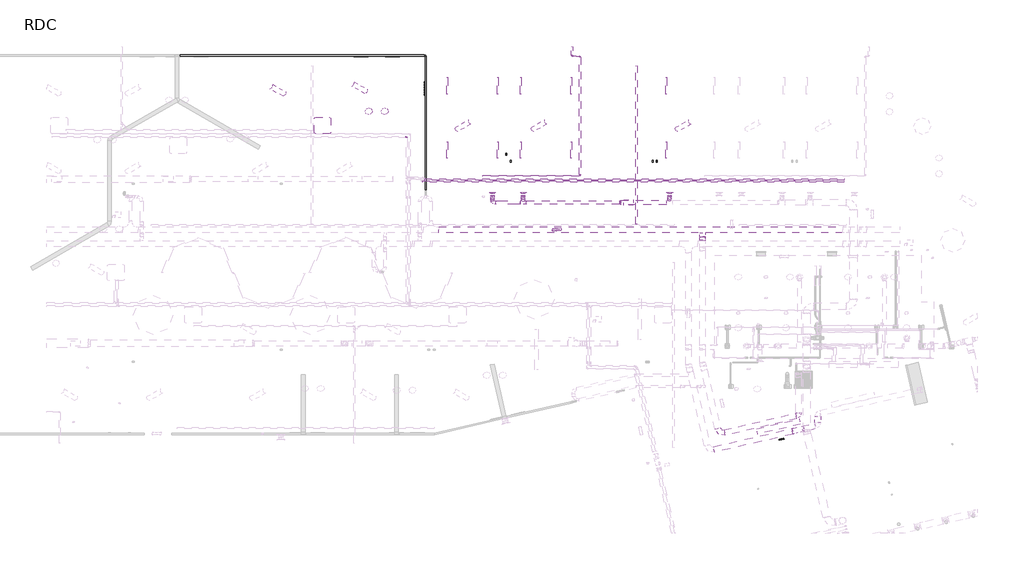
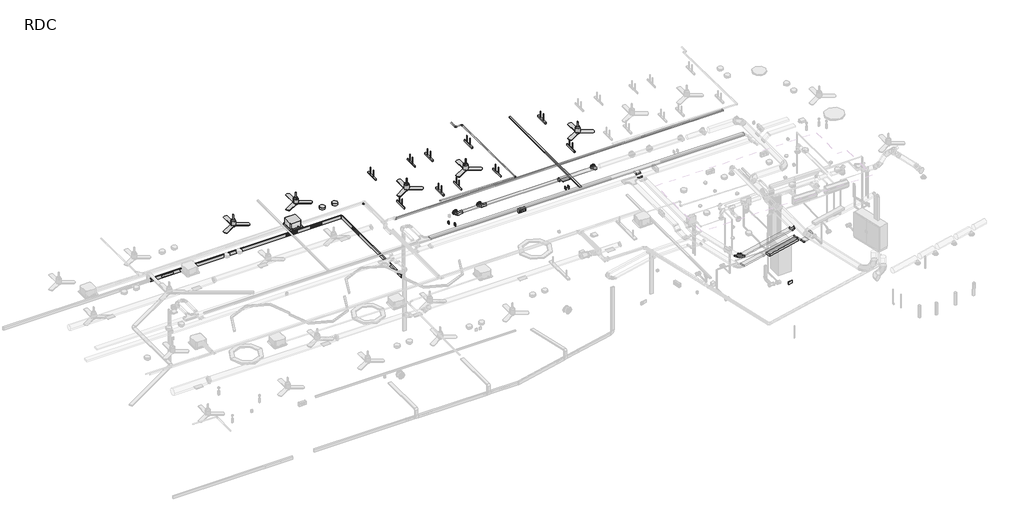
# One storey, part 8 of 15: 28 proxies, 15 light fixtures, 11 duct segments, 8 cable carrier segments, 7 duct fittings, 6 cable carrier fittings, 6 pipe segments, 4 air terminals, 5 other elements.
"""IFC4 building model written with IfcOpenShell, lengths in millimetres."""

from ifc_helpers import new_model, si_unit, point, frame, frame_2d, origin, place, context, project, spatial, polyline, circle_curve, trimmed, segment, composite_curve, outline, extrude, transform, mapped, element, save
from components import air_terminal_c84e8fe3, air_terminal_300x150_ce1732d7, alarm_a2f5a035, electrical_fixtures_f93b5bb2, electrical_fixtures_7208e772, electrical_fixtures_3a4acf06, mechanical_equipment_4a9d14a3, cassette_600x600_07ba985d, standaard_8c2b1447, standaard_3ccb1d7a, standaard_35becd63, standaard_749a00b5, coude_circulaire_1_d_1d3d167f, coude_circulaire_1_d_f5cf0ac1, coude_rectangulaire_rayon_1_w_45743452, standard_07d20943, transformation_ronde_longueur_standard_e9dbb60f, light_fixture_d6a2bba2, light_fixture_1af5f06e, a7_136c5a55, ai_luminaire_spot_downlight_a3_0014797d, c1_2018c24c, standard_8b2a5564, standard_6fab9642, standard_1683f353

model = new_model("IFC4")

# Units and contexts
model_context = context("Model", 3, world=origin())
ifc_project = project(units=[si_unit("LENGTHUNIT", "METRE", prefix="MILLI")], contexts=[model_context])

# Site, building, storey
site = spatial("IfcSite", under=ifc_project)
building = spatial("IfcBuilding", under=site)
storey = spatial("IfcBuildingStorey", under=building, Name="RDC", Elevation=0.0)

# Air terminals
placement = place(None, origin())
air_terminal_shape = air_terminal_c84e8fe3(model_context)
element("IfcAirTerminal", 1, ObjectType="AI_Bouche aération_Circulaire Soufflage : ø125 mm", at=placement, inside=storey, context=model_context, shape_type="MappedRepresentation", body=[
    mapped(air_terminal_shape, transform((30577.9945729, 9719.755098, 2645.2129398), x_axis=(-1.0, 0.0, 0.0), y_axis=(0.0, 0.0, -1.0), z_axis=(0.0, -1.0, 0.0))),
])
element("IfcAirTerminal", 2, ObjectType="AI_Bouche aération_Circulaire Soufflage : ø125 mm", at=placement, inside=storey, context=model_context, shape_type="MappedRepresentation", body=[
    mapped(air_terminal_shape, transform((25377.9945729, 9719.755098, 2645.2129398), x_axis=(-1.0, 0.0, 0.0), y_axis=(0.0, 0.0, -1.0), z_axis=(0.0, -1.0, 0.0))),
])
element("IfcAirTerminal", 3, ObjectType="AI_Bouche aération_Circulaire Soufflage : ø125 mm", at=placement, inside=storey, context=model_context, shape_type="MappedRepresentation", body=[
    mapped(air_terminal_shape, transform((24277.9945729, 9719.755098, 2645.2129398), x_axis=(-1.0, 0.0, 0.0), y_axis=(0.0, 0.0, -1.0), z_axis=(0.0, -1.0, 0.0))),
])
air_terminal_300x150_shape = air_terminal_300x150_ce1732d7(model_context)
element("IfcAirTerminal", 4, ObjectType="AI_Bouche aération_Grille de soufflage rectangulaire sur gaine : 300x150", at=placement, inside=storey, context=model_context, shape_type="MappedRepresentation", body=[
    mapped(air_terminal_300x150_shape, transform((29123.6248798, 9366.3796613, 2740.0988525), x_axis=(0.0, 1.0, 0.0), y_axis=(-1.0, 0.0, 0.0), z_axis=(0.0, 0.0, 1.0))),
])

# Alarm
alarm_shape = alarm_a2f5a035(model_context)
element("IfcAlarm", 5, ObjectType="AI_Incendie_Système de sécurité incendie : Système de sécurité incendie", at=placement, inside=storey, context=model_context, shape_type="MappedRepresentation", body=[
    mapped(alarm_shape, transform((34557.2066266, 946.7791877, 900.0), x_axis=(-0.9743700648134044, -0.22495105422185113, 0.0), y_axis=(0.22495105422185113, -0.9743700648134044, 0.0), z_axis=(0.0, 0.0, 1.0))),
])

# Proxies
electrical_fixtures_shape = electrical_fixtures_f93b5bb2(model_context)
element("IfcBuildingElementProxy", 6, Name="AI_Instal elec_Prise RJ45 : RJ 45 Murale", ObjectType="AI_Instal elec_Prise RJ45 : RJ 45 Murale", at=placement, inside=storey, context=model_context, shape_type="MappedRepresentation", body=[
    mapped(electrical_fixtures_shape, transform((21887.989218, 13288.420784, 300.0), x_axis=(0.0, 1.0, 0.0), y_axis=(-1.0, 0.0, 0.0), z_axis=(0.0, 0.0, 1.0))),
])
element("IfcBuildingElementProxy", 7, Name="AI_Instal elec_Prise RJ45 : RJ 45 Murale", ObjectType="AI_Instal elec_Prise RJ45 : RJ 45 Murale", at=placement, inside=storey, context=model_context, shape_type="MappedRepresentation", body=[
    mapped(electrical_fixtures_shape, transform((21887.989218, 13203.420784, 300.0), x_axis=(0.0, 1.0, 0.0), y_axis=(-1.0, 0.0, 0.0), z_axis=(0.0, 0.0, 1.0))),
])
element("IfcBuildingElementProxy", 8, Name="AI_Instal elec_Prise RJ45 : RJ 45 Murale", ObjectType="AI_Instal elec_Prise RJ45 : RJ 45 Murale", at=placement, inside=storey, context=model_context, shape_type="MappedRepresentation", body=[
    mapped(electrical_fixtures_shape, transform((20855.489218, 14569.3027103, 300.0), x_axis=(-1.0, 0.0, 0.0), y_axis=(0.0, -1.0, 0.0), z_axis=(0.0, 0.0, 1.0))),
])
element("IfcBuildingElementProxy", 9, Name="AI_Instal elec_Prise RJ45 : RJ 45 Murale", ObjectType="AI_Instal elec_Prise RJ45 : RJ 45 Murale", at=placement, inside=storey, context=model_context, shape_type="MappedRepresentation", body=[
    mapped(electrical_fixtures_shape, transform((20940.489218, 14569.3027103, 300.0), x_axis=(-1.0, 0.0, 0.0), y_axis=(0.0, -1.0, 0.0), z_axis=(0.0, 0.0, 1.0))),
])
element("IfcBuildingElementProxy", 10, Name="AI_Instal elec_Prise RJ45 : RJ 45 Murale", ObjectType="AI_Instal elec_Prise RJ45 : RJ 45 Murale", at=placement, inside=storey, context=model_context, shape_type="MappedRepresentation", body=[
    mapped(electrical_fixtures_shape, transform((19735.489218, 14569.3027103, 300.0), x_axis=(-1.0, 0.0, 0.0), y_axis=(0.0, -1.0, 0.0), z_axis=(0.0, 0.0, 1.0))),
])
element("IfcBuildingElementProxy", 11, Name="AI_Instal elec_Prise RJ45 : RJ 45 Murale", ObjectType="AI_Instal elec_Prise RJ45 : RJ 45 Murale", at=placement, inside=storey, context=model_context, shape_type="MappedRepresentation", body=[
    mapped(electrical_fixtures_shape, transform((19820.489218, 14569.3027103, 300.0), x_axis=(-1.0, 0.0, 0.0), y_axis=(0.0, -1.0, 0.0), z_axis=(0.0, 0.0, 1.0))),
])
electrical_fixtures_2_shape = electrical_fixtures_7208e772(model_context)
element("IfcBuildingElementProxy", 12, Name="AI_Instal elec_PC 16A +T à 0,30m : PC 16A +T à 0,30m", ObjectType="AI_Instal elec_PC 16A +T à 0,30m : PC 16A +T à 0,30m", at=placement, inside=storey, context=model_context, shape_type="MappedRepresentation", body=[
    mapped(electrical_fixtures_2_shape, transform((21887.989218, 13628.420784, 300.0), x_axis=(0.0, 1.0, 0.0), y_axis=(-1.0, 0.0, 0.0), z_axis=(0.0, 0.0, 1.0))),
])
element("IfcBuildingElementProxy", 13, Name="AI_Instal elec_PC 16A +T à 0,30m : PC 16A +T à 0,30m", ObjectType="AI_Instal elec_PC 16A +T à 0,30m : PC 16A +T à 0,30m", at=placement, inside=storey, context=model_context, shape_type="MappedRepresentation", body=[
    mapped(electrical_fixtures_2_shape, transform((21887.989218, 13543.420784, 300.0), x_axis=(0.0, 1.0, 0.0), y_axis=(-1.0, 0.0, 0.0), z_axis=(0.0, 0.0, 1.0))),
])
element("IfcBuildingElementProxy", 14, Name="AI_Instal elec_PC 16A +T à 0,30m : PC 16A +T à 0,30m", ObjectType="AI_Instal elec_PC 16A +T à 0,30m : PC 16A +T à 0,30m", at=placement, inside=storey, context=model_context, shape_type="MappedRepresentation", body=[
    mapped(electrical_fixtures_2_shape, transform((20515.489218, 14569.3027103, 300.0), x_axis=(-1.0, 0.0, 0.0), y_axis=(0.0, -1.0, 0.0), z_axis=(0.0, 0.0, 1.0))),
])
element("IfcBuildingElementProxy", 15, Name="AI_Instal elec_PC 16A +T à 0,30m : PC 16A +T à 0,30m", ObjectType="AI_Instal elec_PC 16A +T à 0,30m : PC 16A +T à 0,30m", at=placement, inside=storey, context=model_context, shape_type="MappedRepresentation", body=[
    mapped(electrical_fixtures_2_shape, transform((20600.489218, 14569.3027103, 300.0), x_axis=(-1.0, 0.0, 0.0), y_axis=(0.0, -1.0, 0.0), z_axis=(0.0, 0.0, 1.0))),
])
element("IfcBuildingElementProxy", 16, Name="AI_Instal elec_PC 16A +T à 0,30m : PC 16A +T à 0,30m", ObjectType="AI_Instal elec_PC 16A +T à 0,30m : PC 16A +T à 0,30m", at=placement, inside=storey, context=model_context, shape_type="MappedRepresentation", body=[
    mapped(electrical_fixtures_2_shape, transform((19395.489218, 14569.3027103, 300.0), x_axis=(-1.0, 0.0, 0.0), y_axis=(0.0, -1.0, 0.0), z_axis=(0.0, 0.0, 1.0))),
])
element("IfcBuildingElementProxy", 17, Name="AI_Instal elec_PC 16A +T à 0,30m : PC 16A +T à 0,30m", ObjectType="AI_Instal elec_PC 16A +T à 0,30m : PC 16A +T à 0,30m", at=placement, inside=storey, context=model_context, shape_type="MappedRepresentation", body=[
    mapped(electrical_fixtures_2_shape, transform((19480.489218, 14569.3027103, 300.0), x_axis=(-1.0, 0.0, 0.0), y_axis=(0.0, -1.0, 0.0), z_axis=(0.0, 0.0, 1.0))),
])
element("IfcBuildingElementProxy", 18, Name="AI_Instal elec_Prise de courant 2P+T 16A ondulée : AI_Instal elec_Prise de courant 2P+T 16A ondulée", ObjectType="AI_Instal elec_Prise de courant 2P+T 16A ondulée : AI_Instal elec_Prise de courant 2P+T 16A ondulée", at=placement, inside=storey, context=model_context, shape_type="MappedRepresentation", body=[
    mapped(electrical_fixtures_2_shape, transform((21887.989218, 13458.420784, 300.0), x_axis=(0.0, 1.0, 0.0), y_axis=(-1.0, 0.0, 0.0), z_axis=(0.0, 0.0, 1.0))),
])
element("IfcBuildingElementProxy", 19, Name="AI_Instal elec_Prise de courant 2P+T 16A ondulée : AI_Instal elec_Prise de courant 2P+T 16A ondulée", ObjectType="AI_Instal elec_Prise de courant 2P+T 16A ondulée : AI_Instal elec_Prise de courant 2P+T 16A ondulée", at=placement, inside=storey, context=model_context, shape_type="MappedRepresentation", body=[
    mapped(electrical_fixtures_2_shape, transform((21887.989218, 13373.420784, 300.0), x_axis=(0.0, 1.0, 0.0), y_axis=(-1.0, 0.0, 0.0), z_axis=(0.0, 0.0, 1.0))),
])
element("IfcBuildingElementProxy", 20, Name="AI_Instal elec_Prise de courant 2P+T 16A ondulée : AI_Instal elec_Prise de courant 2P+T 16A ondulée", ObjectType="AI_Instal elec_Prise de courant 2P+T 16A ondulée : AI_Instal elec_Prise de courant 2P+T 16A ondulée", at=placement, inside=storey, context=model_context, shape_type="MappedRepresentation", body=[
    mapped(electrical_fixtures_2_shape, transform((20685.489218, 14569.3027103, 300.0), x_axis=(-1.0, 0.0, 0.0), y_axis=(0.0, -1.0, 0.0), z_axis=(0.0, 0.0, 1.0))),
])
element("IfcBuildingElementProxy", 21, Name="AI_Instal elec_Prise de courant 2P+T 16A ondulée : AI_Instal elec_Prise de courant 2P+T 16A ondulée", ObjectType="AI_Instal elec_Prise de courant 2P+T 16A ondulée : AI_Instal elec_Prise de courant 2P+T 16A ondulée", at=placement, inside=storey, context=model_context, shape_type="MappedRepresentation", body=[
    mapped(electrical_fixtures_2_shape, transform((20770.489218, 14569.3027103, 300.0), x_axis=(-1.0, 0.0, 0.0), y_axis=(0.0, -1.0, 0.0), z_axis=(0.0, 0.0, 1.0))),
])
element("IfcBuildingElementProxy", 22, Name="AI_Instal elec_Prise de courant 2P+T 16A ondulée : AI_Instal elec_Prise de courant 2P+T 16A ondulée", ObjectType="AI_Instal elec_Prise de courant 2P+T 16A ondulée : AI_Instal elec_Prise de courant 2P+T 16A ondulée", at=placement, inside=storey, context=model_context, shape_type="MappedRepresentation", body=[
    mapped(electrical_fixtures_2_shape, transform((19565.489218, 14569.3027103, 300.0), x_axis=(-1.0, 0.0, 0.0), y_axis=(0.0, -1.0, 0.0), z_axis=(0.0, 0.0, 1.0))),
])
element("IfcBuildingElementProxy", 23, Name="AI_Instal elec_Prise de courant 2P+T 16A ondulée : AI_Instal elec_Prise de courant 2P+T 16A ondulée", ObjectType="AI_Instal elec_Prise de courant 2P+T 16A ondulée : AI_Instal elec_Prise de courant 2P+T 16A ondulée", at=placement, inside=storey, context=model_context, shape_type="MappedRepresentation", body=[
    mapped(electrical_fixtures_2_shape, transform((19650.489218, 14569.3027103, 300.0), x_axis=(-1.0, 0.0, 0.0), y_axis=(0.0, -1.0, 0.0), z_axis=(0.0, 0.0, 1.0))),
])
electrical_fixtures_3_shape = electrical_fixtures_3a4acf06(model_context)
element("IfcBuildingElementProxy", 24, Name="AI_Instal elec_Brasseur d'air : AI_Instal elec_Brasseur d'air", ObjectType="AI_Instal elec_Brasseur d'air : AI_Instal elec_Brasseur d'air", at=placement, inside=storey, context=model_context, shape_type="MappedRepresentation", body=[
    mapped(electrical_fixtures_3_shape, transform((26242.3869262, 12271.8795764, 2500.0), x_axis=(1.0, 0.0, 0.0), y_axis=(0.0, 1.0, 0.0), z_axis=(0.0, 0.0, 1.0))),
])
element("IfcBuildingElementProxy", 25, Name="AI_Instal elec_Brasseur d'air : AI_Instal elec_Brasseur d'air", ObjectType="AI_Instal elec_Brasseur d'air : AI_Instal elec_Brasseur d'air", at=placement, inside=storey, context=model_context, shape_type="MappedRepresentation", body=[
    mapped(electrical_fixtures_3_shape, transform((23542.3869262, 12271.8795764, 2500.0), x_axis=(1.0, 0.0, 0.0), y_axis=(0.0, 1.0, 0.0), z_axis=(0.0, 0.0, 1.0))),
])
element("IfcBuildingElementProxy", 26, Name="AI_Instal elec_Brasseur d'air : AI_Instal elec_Brasseur d'air", ObjectType="AI_Instal elec_Brasseur d'air : AI_Instal elec_Brasseur d'air", at=placement, inside=storey, context=model_context, shape_type="MappedRepresentation", body=[
    mapped(electrical_fixtures_3_shape, transform((31367.3869262, 12271.8795764, 2500.0), x_axis=(1.0, 0.0, 0.0), y_axis=(0.0, 1.0, 0.0), z_axis=(0.0, 0.0, 1.0))),
])
element("IfcBuildingElementProxy", 27, Name="AI_Instal elec_Brasseur d'air : AI_Instal elec_Brasseur d'air", ObjectType="AI_Instal elec_Brasseur d'air : AI_Instal elec_Brasseur d'air", at=placement, inside=storey, context=model_context, shape_type="MappedRepresentation", body=[
    mapped(electrical_fixtures_3_shape, transform((19256.0013218, 13624.6884314, 2500.0), x_axis=(1.0, 0.0, 0.0), y_axis=(0.0, 1.0, 0.0), z_axis=(0.0, 0.0, 1.0))),
])
element("IfcBuildingElementProxy", 28, Name="AI_Instal elec_Brasseur d'air : AI_Instal elec_Brasseur d'air", ObjectType="AI_Instal elec_Brasseur d'air : AI_Instal elec_Brasseur d'air", at=placement, inside=storey, context=model_context, shape_type="MappedRepresentation", body=[
    mapped(electrical_fixtures_3_shape, transform((16346.0013218, 13534.6884314, 2500.0), x_axis=(1.0, 0.0, 0.0), y_axis=(0.0, 1.0, 0.0), z_axis=(0.0, 0.0, 1.0))),
])
mechanical_equipment_shape = mechanical_equipment_4a9d14a3(model_context)
element("IfcBuildingElementProxy", 29, Name="AI_Eqpmt genie clim_Commande murale Clim : Commande murale Clim", ObjectType="AI_Eqpmt genie clim_Commande murale Clim : Commande murale Clim", at=placement, inside=storey, context=model_context, shape_type="MappedRepresentation", body=[
    mapped(mechanical_equipment_shape, transform((24923.502581, 10839.1469545, 1130.0), x_axis=(0.0, -1.0, 0.0), y_axis=(1.0, 0.0, 0.0), z_axis=(0.0, 0.0, 1.0))),
])
element("IfcBuildingElementProxy", 30, Name="AI_Eqpmt genie clim_Commande murale Clim : Commande murale Clim", ObjectType="AI_Eqpmt genie clim_Commande murale Clim : Commande murale Clim", at=placement, inside=storey, context=model_context, shape_type="MappedRepresentation", body=[
    mapped(mechanical_equipment_shape, transform((24795.9728872, 11084.9658872, 1130.0), x_axis=(0.0, 1.0, 0.0), y_axis=(-1.0, 0.0, 0.0), z_axis=(0.0, 0.0, 1.0))),
])
element("IfcBuildingElementProxy", 31, Name="AI_Eqpmt genie clim_Commande murale Clim : Commande murale Clim", ObjectType="AI_Eqpmt genie clim_Commande murale Clim : Commande murale Clim", at=placement, inside=storey, context=model_context, shape_type="MappedRepresentation", body=[
    mapped(mechanical_equipment_shape, transform((30100.6905255, 10839.1469545, 1130.0), x_axis=(0.0, -1.0, 0.0), y_axis=(1.0, 0.0, 0.0), z_axis=(0.0, 0.0, 1.0))),
])
element("IfcBuildingElementProxy", 32, Name="AI_Eqpmt genie clim_Commande murale Clim : Commande murale Clim", ObjectType="AI_Eqpmt genie clim_Commande murale Clim : Commande murale Clim", at=placement, inside=storey, context=model_context, shape_type="MappedRepresentation", body=[
    mapped(mechanical_equipment_shape, transform((30000.6905255, 10839.2735754, 1130.0), x_axis=(0.0, 1.0, 0.0), y_axis=(-1.0, 0.0, 0.0), z_axis=(0.0, 0.0, 1.0))),
])
cassette_600x600_shape = cassette_600x600_07ba985d(model_context)
element("IfcBuildingElementProxy", 33, Name="AI_Eqpmt genie clim_Cassette plafonnière : Cassette 600x600", ObjectType="AI_Eqpmt genie clim_Cassette plafonnière : Cassette 600x600", at=placement, inside=storey, context=model_context, shape_type="MappedRepresentation", body=[
    mapped(cassette_600x600_shape, transform((17377.2942225, 12897.391148, 2680.0), x_axis=(1.0, 0.0, 0.0), y_axis=(0.0, 1.0, 0.0), z_axis=(0.0, 0.0, 1.0))),
])

# Cable carrier fittings
standaard_shape = standaard_8c2b1447(model_context)
element("IfcCableCarrierFitting", 34, ObjectType="AI_Raccord cdc_Coude horizontal rayon court : standaard", at=placement, inside=storey, context=model_context, shape_type="MappedRepresentation", body=[
    mapped(standaard_shape, transform((32336.9309606, 1145.8275526, 2856.9968882), x_axis=(0.22494649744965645, -0.9743711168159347, 0.0), y_axis=(0.9743711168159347, 0.22494649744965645, 0.0), z_axis=(0.0, 0.0, 1.0))),
])
standaard_2_shape = standaard_3ccb1d7a(model_context)
element("IfcCableCarrierFitting", 35, ObjectType="AI_Raccord cdc_Coude desencdant : standaard", at=placement, inside=storey, context=model_context, shape_type="MappedRepresentation", body=[
    mapped(standaard_2_shape, transform((31753.8980101, 8133.2673677, 2856.9968882), x_axis=(0.0, 0.7071067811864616, 0.7071067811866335), y_axis=(0.0, 0.7071067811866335, -0.7071067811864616), z_axis=(-1.0, 0.0, 0.0))),
])
element("IfcCableCarrierFitting", 36, ObjectType="AI_Raccord cdc_Coude desencdant : standaard", at=placement, inside=storey, context=model_context, shape_type="MappedRepresentation", body=[
    mapped(standaard_2_shape, transform((34960.0857534, 1238.2661331, 2856.9968882), x_axis=(0.9743711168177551, 0.2249464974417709, 0.0), y_axis=(0.0, -1.927499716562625e-12, -1.0), z_axis=(-0.2249464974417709, 0.9743711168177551, -1.9781987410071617e-12))),
])
standaard_3_shape = standaard_35becd63(model_context)
element("IfcCableCarrierFitting", 37, ObjectType="AI_Raccord cdc_Coude montant : standaard", at=placement, inside=storey, context=model_context, shape_type="MappedRepresentation", body=[
    mapped(standaard_3_shape, transform((31753.8980101, 8020.1302827, 2743.8598032), x_axis=(0.0, 1.0, 0.0), y_axis=(0.0, 0.0, 1.0), z_axis=(1.0, 0.0, 0.0))),
])
element("IfcCableCarrierFitting", 38, ObjectType="AI_Raccord cdc_Coude montant : standaard", at=placement, inside=storey, context=model_context, shape_type="MappedRepresentation", body=[
    mapped(standaard_3_shape, transform((35337.1643436, 1325.3197276, 2470.0), x_axis=(0.6889844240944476, 0.15906119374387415, -0.707106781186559), y_axis=(0.6889844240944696, 0.1590611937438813, 0.7071067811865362), z_axis=(0.22494649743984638, -0.9743711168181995, 0.0))),
])
standaard_4_shape = standaard_749a00b5(model_context)
element("IfcCableCarrierFitting", 39, ObjectType="AI_Raccord cdc_Coude horizontal rayon court : standaard", at=placement, inside=storey, context=model_context, shape_type="MappedRepresentation", body=[
    mapped(standaard_4_shape, transform((35168.4331978, 1799.5174042, 2856.9968882), x_axis=(0.9743711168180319, 0.22494649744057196, 0.0), y_axis=(-0.22494649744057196, 0.9743711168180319, 0.0), z_axis=(0.0, 0.0, 1.0))),
])

# Cable carrier segments
element("IfcCableCarrierSegment", 40, ObjectType="Par défaut", at=placement, inside=storey, context=model_context, shape_type="SweptSolid", body=[
    extrude(outline(polyline([(35051.9577566, 1875.2578036), (35096.9470561, 1680.3835802), (32555.2742048, 1093.6046869), (32510.2849053, 1288.4789103), (35051.9577566, 1875.2578036)])), frame((0.0, 0.0, 2826.9968882), z_axis=(0.0, 0.0, 1.0), x_axis=(1.0, 0.0, 0.0)), (0.0, 0.0, 1.0), 60.0),
])
element("IfcCableCarrierSegment", 41, ObjectType="Par défaut", at=placement, inside=storey, context=model_context, shape_type="SweptSolid", body=[
    extrude(outline(polyline([(100.0, 134.403065), (100.0, 74.4030651), (-100.0, 74.4030651), (-100.0, 134.403065), (100.0, 134.403065)])), frame((31753.8980101, 7956.092964, 2827.4707151), z_axis=(0.0, 0.707106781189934, 0.7071067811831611), x_axis=(1.0, 0.0, 0.0)), (0.0, 0.0, 1.0), 132.3187591),
])
element("IfcCableCarrierSegment", 42, ObjectType="Par défaut", at=placement, inside=storey, context=model_context, shape_type="SweptSolid", body=[
    extrude(outline(polyline([(31853.8980101, 8302.2308907), (31853.8980101, 8147.1079881), (31653.8980101, 8147.1079881), (31653.8980101, 8302.2308907), (31853.8980101, 8302.2308907)])), frame((0.0, 0.0, 2826.9968882), z_axis=(0.0, 0.0, 1.0), x_axis=(1.0, 0.0, 0.0)), (0.0, 0.0, 1.0), 60.0),
])
element("IfcCableCarrierSegment", 43, ObjectType="Par défaut", at=placement, inside=storey, context=model_context, shape_type="SweptSolid", body=[
    extrude(outline(polyline([(32180.5618951, 493.9458798), (32135.5725956, 688.8201032), (34924.1052029, 1332.5898457), (34969.0945024, 1137.7156223), (32180.5618951, 493.9458798)])), frame((0.0, 0.0, 2826.9968882), z_axis=(0.0, 0.0, 1.0), x_axis=(1.0, 0.0, 0.0)), (0.0, 0.0, 1.0), 60.0),
])
element("IfcCableCarrierSegment", 44, ObjectType="Par défaut", at=placement, inside=storey, context=model_context, shape_type="SweptSolid", body=[
    extrude(outline(polyline([(0.0, -200.0), (0.0, 0.0), (519.6150071, 0.0), (519.6150071, -200.0000001), (0.0, -200.0)])), frame((34926.4575428, 1333.1329146, 2825.9968882), z_axis=(0.6889844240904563, 0.15906119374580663, 0.7071067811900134), x_axis=(0.6889844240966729, 0.15906119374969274, -0.7071067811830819)), (0.0, 0.0, 1.0), 60.0),
])
element("IfcCableCarrierSegment", 45, ObjectType="Par défaut", at=placement, inside=storey, context=model_context, shape_type="SweptSolid", body=[
    extrude(outline(polyline([(35373.1448941, 1230.996015), (35328.1555946, 1425.8702384), (35729.1391293, 1518.4426065), (35774.1284288, 1323.5683831), (35373.1448941, 1230.996015)])), frame((0.0, 0.0, 2440.0), z_axis=(0.0, 0.0, 1.0), x_axis=(1.0, 0.0, 0.0)), (0.0, 0.0, 1.0), 60.0),
])
element("IfcCableCarrierSegment", 46, ObjectType="Par défaut", at=placement, inside=storey, context=model_context, shape_type="SweptSolid", body=[
    extrude(outline(polyline([(35745.6145705, 1767.1552891), (35945.6145705, 1767.1552891), (35945.6145705, 1539.1549753), (35745.6145705, 1539.1549753), (35745.6145705, 1767.1552891)])), frame((0.0, 0.0, 2440.0), z_axis=(0.0, 0.0, 1.0), x_axis=(1.0, 0.0, 0.0)), (0.0, 0.0, 1.0), 60.0),
])
element("IfcCableCarrierSegment", 47, ObjectType="Par défaut", at=placement, inside=storey, context=model_context, shape_type="SweptSolid", body=[
    extrude(outline(polyline([(36735.5359612, 8502.2308907), (36735.5359612, 8302.2308907), (22377.472328, 8302.2308907), (22377.472328, 8502.2308907), (36735.5359612, 8502.2308907)])), frame((0.0, 0.0, 2826.9968882), z_axis=(0.0, 0.0, 1.0), x_axis=(1.0, 0.0, 0.0)), (0.0, 0.0, 1.0), 60.0),
])

# Duct fittings
coude_circulaire_1_d_shape = coude_circulaire_1_d_1d3d167f(model_context)
element("IfcDuctFitting", 48, ObjectType="Coude circulaire : 1 D", at=placement, inside=storey, context=model_context, shape_type="MappedRepresentation", body=[
    mapped(coude_circulaire_1_d_shape, transform((30577.9945729, 9541.1667215, 2645.2129398), x_axis=(0.0, 0.7071067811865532, -0.7071067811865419), y_axis=(0.0, 0.7071067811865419, 0.7071067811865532), z_axis=(1.0, 0.0, 0.0))),
])
element("IfcDuctFitting", 49, ObjectType="Coude circulaire : 1 D", at=placement, inside=storey, context=model_context, shape_type="MappedRepresentation", body=[
    mapped(coude_circulaire_1_d_shape, transform((25377.9945729, 9541.1667215, 2645.2129398), x_axis=(0.0, 0.7071067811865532, -0.7071067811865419), y_axis=(0.0, 0.7071067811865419, 0.7071067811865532), z_axis=(1.0, 0.0, 0.0))),
])
element("IfcDuctFitting", 50, ObjectType="Coude circulaire : 1 D", at=placement, inside=storey, context=model_context, shape_type="MappedRepresentation", body=[
    mapped(coude_circulaire_1_d_shape, transform((24277.9945729, 9541.1667215, 2645.2129398), x_axis=(0.0, 0.7071067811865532, -0.7071067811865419), y_axis=(0.0, 0.7071067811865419, 0.7071067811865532), z_axis=(1.0, 0.0, 0.0))),
])
coude_circulaire_1_d_2_shape = coude_circulaire_1_d_f5cf0ac1(model_context)
element("IfcDuctFitting", 51, ObjectType="Coude circulaire : 1 D", at=placement, inside=storey, context=model_context, shape_type="MappedRepresentation", body=[
    mapped(coude_circulaire_1_d_2_shape, transform((24277.9945729, 9366.3796613, 2820.0), x_axis=(-1.0, 0.0, 0.0), y_axis=(0.0, 0.7071067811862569, -0.7071067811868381), z_axis=(0.0, -0.7071067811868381, -0.7071067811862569))),
])
coude_rectangulaire_rayon_1_w_shape = coude_rectangulaire_rayon_1_w_45743452(model_context)
element("IfcDuctFitting", 52, ObjectType="Coude rectangulaire - Rayon : 1 W", at=placement, inside=storey, context=model_context, shape_type="MappedRepresentation", body=[
    mapped(coude_rectangulaire_rayon_1_w_shape, transform((21912.989218, 14594.3027103, 300.0), x_axis=(0.0, 1.0, 0.0), y_axis=(-1.0, 0.0, 0.0), z_axis=(0.0, 0.0, 1.0))),
])
standard_shape = standard_07d20943(model_context)
element("IfcDuctFitting", 53, ObjectType="Té circulaire : Standard", at=placement, inside=storey, context=model_context, shape_type="MappedRepresentation", body=[
    mapped(standard_shape, transform((25377.9945729, 9366.3796613, 2820.0), x_axis=(-1.0, 0.0, 0.0), y_axis=(0.0, -0.7071067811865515, 0.7071067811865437), z_axis=(0.0, 0.7071067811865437, 0.7071067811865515))),
])
transformation_ronde_longueur_standard_shape = transformation_ronde_longueur_standard_e9dbb60f(model_context)
element("IfcDuctFitting", 54, ObjectType="Transformation ronde - Longueur : Standard", at=placement, inside=storey, context=model_context, shape_type="MappedRepresentation", body=[
    mapped(transformation_ronde_longueur_standard_shape, transform((28805.4945729, 9366.3796613, 2820.0), x_axis=(1.0, 0.0, 0.0), y_axis=(0.0, 1.0, 0.0), z_axis=(0.0, 0.0, 1.0))),
])

# Duct segments
element("IfcDuctSegment", 55, ObjectType="Circulaire - Té", at=placement, inside=storey, context=model_context, shape_type="SweptSolid", body=[
    extrude(outline(composite_curve([segment(trimmed(circle_curve(frame_2d((0.0, -62.5)), 62.5), [point((62.5, -62.5))], [point((0.0, -125.0000001))], False, "CARTESIAN"), True, "CONTINUOUS"), segment(trimmed(circle_curve(frame_2d((0.0, -62.5)), 62.5), [point((0.0, -125.0000001))], [point((-62.5, -62.5))], False, "CARTESIAN"), True, "CONTINUOUS"), segment(trimmed(circle_curve(frame_2d((0.0, -62.5)), 62.5), [point((-62.5, -62.5))], [point((0.0, 0.0))], False, "CARTESIAN"), True, "CONTINUOUS"), segment(trimmed(circle_curve(frame_2d((0.0, -62.5)), 62.5), [point((0.0, 0.0))], [point((62.5, -62.5))], False, "CARTESIAN"), True, "CONTINUOUS")], self_intersect=False)), frame((30577.9945729, 9548.749243, 2726.018766), z_axis=(0.0, -0.7071067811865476, 0.7071067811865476), x_axis=(1.0, 0.0, 0.0)), (0.0, 0.0, 1.0), 65.4095357),
])
element("IfcDuctSegment", 56, ObjectType="Circulaire - Té", at=placement, inside=storey, context=model_context, shape_type="SweptSolid", body=[
    extrude(outline(composite_curve([segment(trimmed(circle_curve(frame_2d((2645.2129398, 30577.9945729)), 62.5), [point((2645.2129398, 30640.4945729))], [point((2707.7129398, 30577.9945729))], False, "CARTESIAN"), True, "CONTINUOUS"), segment(trimmed(circle_curve(frame_2d((2645.2129398, 30577.9945729)), 62.5), [point((2707.7129398, 30577.9945729))], [point((2645.2129398, 30515.4945729))], False, "CARTESIAN"), True, "CONTINUOUS"), segment(trimmed(circle_curve(frame_2d((2645.2129398, 30577.9945729)), 62.5), [point((2645.2129398, 30515.4945729))], [point((2582.7129398, 30577.9945729))], False, "CARTESIAN"), True, "CONTINUOUS"), segment(trimmed(circle_curve(frame_2d((2645.2129398, 30577.9945729)), 62.5), [point((2582.7129398, 30577.9945729))], [point((2645.2129398, 30640.4945729))], False, "CARTESIAN"), True, "CONTINUOUS")], self_intersect=False)), frame((0.0, 9592.9434168, 0.0), z_axis=(0.0, 1.0, 0.0), x_axis=(0.0, 0.0, 1.0)), (0.0, 0.0, 1.0), 40.2116812),
])
element("IfcDuctSegment", 57, ObjectType="Circulaire - Té", at=placement, inside=storey, context=model_context, shape_type="SweptSolid", body=[
    extrude(outline(composite_curve([segment(trimmed(circle_curve(frame_2d((0.0, -62.5)), 62.5), [point((62.5, -62.5))], [point((0.0, -125.0000001))], False, "CARTESIAN"), True, "CONTINUOUS"), segment(trimmed(circle_curve(frame_2d((0.0, -62.5)), 62.5), [point((0.0, -125.0000001))], [point((-62.5, -62.5))], False, "CARTESIAN"), True, "CONTINUOUS"), segment(trimmed(circle_curve(frame_2d((0.0, -62.5)), 62.5), [point((-62.5, -62.5))], [point((0.0, 0.0))], False, "CARTESIAN"), True, "CONTINUOUS"), segment(trimmed(circle_curve(frame_2d((0.0, -62.5)), 62.5), [point((0.0, 0.0))], [point((62.5, -62.5))], False, "CARTESIAN"), True, "CONTINUOUS")], self_intersect=False)), frame((25377.9945729, 9548.749243, 2726.018766), z_axis=(0.0, -0.7071067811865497, 0.7071067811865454), x_axis=(1.0, 0.0, 0.0)), (0.0, 0.0, 1.0), 82.9095357),
])
element("IfcDuctSegment", 58, ObjectType="Circulaire - Té", at=placement, inside=storey, context=model_context, shape_type="SweptSolid", body=[
    extrude(outline(composite_curve([segment(trimmed(circle_curve(frame_2d((2645.2129398, 25377.9945729)), 62.5), [point((2645.2129398, 25440.4945729))], [point((2707.7129398, 25377.9945729))], False, "CARTESIAN"), True, "CONTINUOUS"), segment(trimmed(circle_curve(frame_2d((2645.2129398, 25377.9945729)), 62.5), [point((2707.7129398, 25377.9945729))], [point((2645.2129398, 25315.4945729))], False, "CARTESIAN"), True, "CONTINUOUS"), segment(trimmed(circle_curve(frame_2d((2645.2129398, 25377.9945729)), 62.5), [point((2645.2129398, 25315.4945729))], [point((2582.7129398, 25377.9945729))], False, "CARTESIAN"), True, "CONTINUOUS"), segment(trimmed(circle_curve(frame_2d((2645.2129398, 25377.9945729)), 62.5), [point((2582.7129398, 25377.9945729))], [point((2645.2129398, 25440.4945729))], False, "CARTESIAN"), True, "CONTINUOUS")], self_intersect=False)), frame((0.0, 9592.9434168, 0.0), z_axis=(0.0, 1.0, 0.0), x_axis=(0.0, 0.0, 1.0)), (0.0, 0.0, 1.0), 40.2116812),
])
element("IfcDuctSegment", 59, ObjectType="Circulaire - Té", at=placement, inside=storey, context=model_context, shape_type="SweptSolid", body=[
    extrude(outline(composite_curve([segment(trimmed(circle_curve(frame_2d((0.0, -62.5)), 62.5), [point((62.5, -62.5))], [point((0.0, -125.0000001))], False, "CARTESIAN"), True, "CONTINUOUS"), segment(trimmed(circle_curve(frame_2d((0.0, -62.5)), 62.5), [point((0.0, -125.0000001))], [point((-62.5, -62.5))], False, "CARTESIAN"), True, "CONTINUOUS"), segment(trimmed(circle_curve(frame_2d((0.0, -62.5)), 62.5), [point((-62.5, -62.5))], [point((0.0, 0.0))], False, "CARTESIAN"), True, "CONTINUOUS"), segment(trimmed(circle_curve(frame_2d((0.0, -62.5)), 62.5), [point((0.0, 0.0))], [point((62.5, -62.5))], False, "CARTESIAN"), True, "CONTINUOUS")], self_intersect=False)), frame((24277.9945729, 9548.749243, 2726.018766), z_axis=(0.0, -0.7071067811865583, 0.7071067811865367), x_axis=(1.0, 0.0, 0.0)), (0.0, 0.0, 1.0), 70.4095357),
])
element("IfcDuctSegment", 60, ObjectType="Circulaire - Té", at=placement, inside=storey, context=model_context, shape_type="SweptSolid", body=[
    extrude(outline(composite_curve([segment(trimmed(circle_curve(frame_2d((2645.2129398, 24277.9945729)), 62.5), [point((2645.2129398, 24340.4945729))], [point((2707.7129398, 24277.9945729))], False, "CARTESIAN"), True, "CONTINUOUS"), segment(trimmed(circle_curve(frame_2d((2645.2129398, 24277.9945729)), 62.5), [point((2707.7129398, 24277.9945729))], [point((2645.2129398, 24215.4945729))], False, "CARTESIAN"), True, "CONTINUOUS"), segment(trimmed(circle_curve(frame_2d((2645.2129398, 24277.9945729)), 62.5), [point((2645.2129398, 24215.4945729))], [point((2582.7129398, 24277.9945729))], False, "CARTESIAN"), True, "CONTINUOUS"), segment(trimmed(circle_curve(frame_2d((2645.2129398, 24277.9945729)), 62.5), [point((2582.7129398, 24277.9945729))], [point((2645.2129398, 24340.4945729))], False, "CARTESIAN"), True, "CONTINUOUS")], self_intersect=False)), frame((0.0, 9592.9434168, 0.0), z_axis=(0.0, 1.0, 0.0), x_axis=(0.0, 0.0, 1.0)), (0.0, 0.0, 1.0), 40.2116812),
])
element("IfcDuctSegment", 61, ObjectType="Circulaire - Té", at=placement, inside=storey, context=model_context, shape_type="SweptSolid", body=[
    extrude(outline(composite_curve([segment(trimmed(circle_curve(frame_2d((9366.3796613, 2820.0)), 62.5), [point((9303.8796613, 2820.0))], [point((9366.3796613, 2882.5))], False, "CARTESIAN"), True, "CONTINUOUS"), segment(trimmed(circle_curve(frame_2d((9366.3796613, 2820.0)), 62.5), [point((9366.3796613, 2882.5))], [point((9428.8796613, 2820.0))], False, "CARTESIAN"), True, "CONTINUOUS"), segment(trimmed(circle_curve(frame_2d((9366.3796613, 2820.0)), 62.5), [point((9428.8796613, 2820.0))], [point((9366.3796613, 2757.5))], False, "CARTESIAN"), True, "CONTINUOUS"), segment(trimmed(circle_curve(frame_2d((9366.3796613, 2820.0)), 62.5), [point((9366.3796613, 2757.5))], [point((9303.8796613, 2820.0))], False, "CARTESIAN"), True, "CONTINUOUS")], self_intersect=False)), frame((24402.9945729, 0.0, 0.0), z_axis=(1.0, 0.0, 0.0), x_axis=(0.0, 1.0, 0.0)), (0.0, 0.0, 1.0), 862.5),
])
element("IfcDuctSegment", 62, ObjectType="Circulaire - Té", at=placement, inside=storey, context=model_context, shape_type="SweptSolid", body=[
    extrude(outline(composite_curve([segment(trimmed(circle_curve(frame_2d((9366.3796613, 2820.0)), 80.0), [point((9286.3796613, 2820.0))], [point((9366.3796613, 2900.0))], False, "CARTESIAN"), True, "CONTINUOUS"), segment(trimmed(circle_curve(frame_2d((9366.3796613, 2820.0)), 80.0), [point((9366.3796613, 2900.0))], [point((9446.3796613, 2820.0))], False, "CARTESIAN"), True, "CONTINUOUS"), segment(trimmed(circle_curve(frame_2d((9366.3796613, 2820.0)), 80.0), [point((9446.3796613, 2820.0))], [point((9366.3796613, 2740.0))], False, "CARTESIAN"), True, "CONTINUOUS"), segment(trimmed(circle_curve(frame_2d((9366.3796613, 2820.0)), 80.0), [point((9366.3796613, 2740.0))], [point((9286.3796613, 2820.0))], False, "CARTESIAN"), True, "CONTINUOUS")], self_intersect=False)), frame((28840.4945729, 0.0, 0.0), z_axis=(1.0, 0.0, 0.0), x_axis=(0.0, 1.0, 0.0)), (0.0, 0.0, 1.0), 1625.0),
])
element("IfcDuctSegment", 63, ObjectType="Goulotte", at=placement, inside=storey, context=model_context, shape_type="SweptSolid", body=[
    extrude(outline(polyline([(21887.989218, 14544.3027103), (21937.989218, 14544.3027103), (21937.989218, 9814.3027164), (21887.989218, 9814.3027164), (21887.989218, 14544.3027103)])), frame((0.0, 0.0, 235.0), z_axis=(0.0, 0.0, 1.0), x_axis=(1.0, 0.0, 0.0)), (0.0, 0.0, 1.0), 130.0),
])
element("IfcDuctSegment", 64, ObjectType="Goulotte", at=placement, inside=storey, context=model_context, shape_type="SweptSolid", body=[
    extrude(outline(polyline([(21862.989218, 14619.3027103), (21862.989218, 14569.3027103), (13161.4318355, 14569.3027103), (13161.4318355, 14619.3027103), (21862.989218, 14619.3027103)])), frame((0.0, 0.0, 235.0), z_axis=(0.0, 0.0, 1.0), x_axis=(1.0, 0.0, 0.0)), (0.0, 0.0, 1.0), 130.0),
])
element("IfcDuctSegment", 65, ObjectType="Circulaire - Té", at=placement, inside=storey, context=model_context, shape_type="SweptSolid", body=[
    extrude(outline(composite_curve([segment(trimmed(circle_curve(frame_2d((9366.3796613, 2820.0)), 62.5), [point((9303.8796613, 2820.0))], [point((9366.3796613, 2882.5))], False, "CARTESIAN"), True, "CONTINUOUS"), segment(trimmed(circle_curve(frame_2d((9366.3796613, 2820.0)), 62.5), [point((9366.3796613, 2882.5))], [point((9428.8796613, 2820.0))], False, "CARTESIAN"), True, "CONTINUOUS"), segment(trimmed(circle_curve(frame_2d((9366.3796613, 2820.0)), 62.5), [point((9428.8796613, 2820.0))], [point((9366.3796613, 2757.5))], False, "CARTESIAN"), True, "CONTINUOUS"), segment(trimmed(circle_curve(frame_2d((9366.3796613, 2820.0)), 62.5), [point((9366.3796613, 2757.5))], [point((9303.8796613, 2820.0))], False, "CARTESIAN"), True, "CONTINUOUS")], self_intersect=False)), frame((25490.4945729, 0.0, 0.0), z_axis=(1.0, 0.0, 0.0), x_axis=(0.0, 1.0, 0.0)), (0.0, 0.0, 1.0), 3315.0),
])

# Light fixtures
light_fixture_shape = light_fixture_d6a2bba2(model_context)
element("IfcLightFixture", 66, ObjectType="AI_Luminaire_BAES : BAES", at=placement, inside=storey, context=model_context, shape_type="MappedRepresentation", body=[
    mapped(light_fixture_shape, transform((26567.8409682, 8402.2308907, 2707.4449631), x_axis=(-1.0, 0.0, 0.0), y_axis=(0.0, -1.0, 0.0), z_axis=(0.0, 0.0, 1.0))),
])
light_fixture_2_shape = light_fixture_1af5f06e(model_context)
element("IfcLightFixture", 67, ObjectType="AI_Luminaire_CONCEPT S_Linéaire : CONCEPTION S", at=placement, inside=storey, context=model_context, shape_type="MappedRepresentation", body=[
    mapped(light_fixture_2_shape, transform((29399.4834334, 11416.6900778, 2733.711413), x_axis=(0.0, 1.0, 0.0), y_axis=(-1.0, 0.0, 0.0), z_axis=(0.0, 0.0, 1.0))),
])
a7_shape = a7_136c5a55(model_context)
element("IfcLightFixture", 68, ObjectType="AI_Luminaire_Linéaire avec suspente : A7", at=placement, inside=storey, context=model_context, shape_type="MappedRepresentation", body=[
    mapped(a7_shape, transform((22677.989218, 11235.920784, 2680.0), x_axis=(0.0, -1.0, 0.0), y_axis=(1.0, 0.0, 0.0), z_axis=(0.0, 0.0, 1.0))),
])
element("IfcLightFixture", 69, ObjectType="AI_Luminaire_Linéaire avec suspente : A7", at=placement, inside=storey, context=model_context, shape_type="MappedRepresentation", body=[
    mapped(a7_shape, transform((24477.989218, 11235.920784, 2680.0), x_axis=(0.0, -1.0, 0.0), y_axis=(1.0, 0.0, 0.0), z_axis=(0.0, 0.0, 1.0))),
])
element("IfcLightFixture", 70, ObjectType="AI_Luminaire_Linéaire avec suspente : A7", at=placement, inside=storey, context=model_context, shape_type="MappedRepresentation", body=[
    mapped(a7_shape, transform((22677.989218, 13518.5237676, 2680.0), x_axis=(0.0, -1.0, 0.0), y_axis=(1.0, 0.0, 0.0), z_axis=(0.0, 0.0, 1.0))),
])
element("IfcLightFixture", 71, ObjectType="AI_Luminaire_Linéaire avec suspente : A7", at=placement, inside=storey, context=model_context, shape_type="MappedRepresentation", body=[
    mapped(a7_shape, transform((24477.989218, 13518.5237676, 2680.0), x_axis=(0.0, -1.0, 0.0), y_axis=(1.0, 0.0, 0.0), z_axis=(0.0, 0.0, 1.0))),
])
element("IfcLightFixture", 72, ObjectType="AI_Luminaire_Linéaire avec suspente : A7", at=placement, inside=storey, context=model_context, shape_type="MappedRepresentation", body=[
    mapped(a7_shape, transform((25286.5749808, 11235.920784, 2680.0), x_axis=(0.0, -1.0, 0.0), y_axis=(1.0, 0.0, 0.0), z_axis=(0.0, 0.0, 1.0))),
])
element("IfcLightFixture", 73, ObjectType="AI_Luminaire_Linéaire avec suspente : A7", at=placement, inside=storey, context=model_context, shape_type="MappedRepresentation", body=[
    mapped(a7_shape, transform((27087.989218, 11235.920784, 2680.0), x_axis=(0.0, -1.0, 0.0), y_axis=(1.0, 0.0, 0.0), z_axis=(0.0, 0.0, 1.0))),
])
element("IfcLightFixture", 74, ObjectType="AI_Luminaire_Linéaire avec suspente : A7", at=placement, inside=storey, context=model_context, shape_type="MappedRepresentation", body=[
    mapped(a7_shape, transform((25286.5749808, 13518.5237676, 2680.0), x_axis=(0.0, -1.0, 0.0), y_axis=(1.0, 0.0, 0.0), z_axis=(0.0, 0.0, 1.0))),
])
element("IfcLightFixture", 75, ObjectType="AI_Luminaire_Linéaire avec suspente : A7", at=placement, inside=storey, context=model_context, shape_type="MappedRepresentation", body=[
    mapped(a7_shape, transform((27087.989218, 13518.5237676, 2680.0), x_axis=(0.0, -1.0, 0.0), y_axis=(1.0, 0.0, 0.0), z_axis=(0.0, 0.0, 1.0))),
])
element("IfcLightFixture", 76, ObjectType="AI_Luminaire_Linéaire avec suspente : A7", at=placement, inside=storey, context=model_context, shape_type="MappedRepresentation", body=[
    mapped(a7_shape, transform((30462.989218, 11235.920784, 2680.0), x_axis=(0.0, -1.0, 0.0), y_axis=(1.0, 0.0, 0.0), z_axis=(0.0, 0.0, 1.0))),
])
element("IfcLightFixture", 77, ObjectType="AI_Luminaire_Linéaire avec suspente : A7", at=placement, inside=storey, context=model_context, shape_type="MappedRepresentation", body=[
    mapped(a7_shape, transform((30462.989218, 13518.5237676, 2680.0), x_axis=(0.0, -1.0, 0.0), y_axis=(1.0, 0.0, 0.0), z_axis=(0.0, 0.0, 1.0))),
])
ai_luminaire_spot_downlight_a3_shape = ai_luminaire_spot_downlight_a3_0014797d(model_context)
element("IfcLightFixture", 78, ObjectType="AI_Luminaire_Spot Downlight : A3", at=placement, inside=storey, context=model_context, shape_type="MappedRepresentation", body=[
    mapped(ai_luminaire_spot_downlight_a3_shape, transform((20452.4710381, 12610.5391798, 2700.0), x_axis=(-1.0, 0.0, 0.0), y_axis=(0.0, -1.0, 0.0), z_axis=(0.0, 0.0, 1.0))),
])
element("IfcLightFixture", 79, ObjectType="AI_Luminaire_Spot Downlight : A3", at=placement, inside=storey, context=model_context, shape_type="MappedRepresentation", body=[
    mapped(ai_luminaire_spot_downlight_a3_shape, transform((19889.3930238, 12610.5391798, 2700.0), x_axis=(1.0, 0.0, 0.0), y_axis=(0.0, 1.0, 0.0), z_axis=(0.0, 0.0, 1.0))),
])
c1_shape = c1_2018c24c(model_context)
element("IfcLightFixture", 80, ObjectType="AI_Luminaire_Réglette locaux techniques et parkings : C1", at=placement, inside=storey, context=model_context, shape_type="MappedRepresentation", body=[
    mapped(c1_shape, transform((34450.9816791, 1406.8989772, 2500.0), x_axis=(0.9743711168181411, 0.22494649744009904, 0.0), y_axis=(-0.22494649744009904, 0.9743711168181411, 0.0), z_axis=(0.0, 0.0, 1.0))),
])

# Pipe fittings
standard_2_shape = standard_8b2a5564(model_context)
element("IfcPipeFitting", 81, ObjectType="Coude - Générique1 : Standard", at=placement, inside=storey, context=model_context, shape_type="MappedRepresentation", body=[
    mapped(standard_2_shape, transform((27396.5749741, 14566.4313126, 2821.9421115), x_axis=(0.0, 0.9998875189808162, -0.01499831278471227), y_axis=(-0.9998875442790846, -0.00022492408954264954, -0.014994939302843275), z_axis=(-0.014996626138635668, 0.014996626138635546, 0.9997750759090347))),
])
element("IfcPipeFitting", 82, ObjectType="Coude - Générique1 : Standard", at=placement, inside=storey, context=model_context, shape_type="MappedRepresentation", body=[
    mapped(standard_2_shape, transform((27396.5749741, 10318.1772602, 2885.6659223), x_axis=(0.9998875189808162, 0.0, -0.014998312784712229), y_axis=(-0.00022492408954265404, 0.9998875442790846, -0.014994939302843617), z_axis=(0.014996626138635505, 0.01499662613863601, 0.9997750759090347))),
])
standard_3_shape = standard_6fab9642(model_context)
element("IfcPipeFitting", 83, ObjectType="Coude - Générique1 : Standard", at=placement, inside=storey, context=model_context, shape_type="MappedRepresentation", body=[
    mapped(standard_3_shape, transform((27112.6211235, 14566.4313126, 2817.6828037), x_axis=(-8.608639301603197e-08, -0.9998875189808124, 0.014998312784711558), y_axis=(0.9998875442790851, 0.00022483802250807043, 0.014994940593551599), z_axis=(-0.01499662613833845, 0.014996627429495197, 0.9997750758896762))),
])
standard_4_shape = standard_1683f353(model_context)
element("IfcPipeFitting", 84, ObjectType="Coude - Générique1 : Standard", at=placement, inside=storey, context=model_context, shape_type="MappedRepresentation", body=[
    mapped(standard_4_shape, transform((21241.0705539, 11697.7164526, 2918.2995), x_axis=(-1.4498921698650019e-05, 0.9999999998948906, 0.0), y_axis=(-0.9999999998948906, -1.4498921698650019e-05, 0.0), z_axis=(0.0, 0.0, 1.0))),
])

# Pipe segments
element("IfcPipeSegment", 85, ObjectType="Acier - Té", at=placement, inside=storey, context=model_context, shape_type="SweptSolid", body=[
    extrude(outline(composite_curve([segment(trimmed(circle_curve(frame_2d((0.0, 21.082)), 21.082), [point((0.0, 0.0))], [point((-21.082, 21.082))], False, "CARTESIAN"), True, "CONTINUOUS"), segment(trimmed(circle_curve(frame_2d((0.0, 21.082)), 21.082), [point((-21.082, 21.082))], [point((0.0, 42.164))], False, "CARTESIAN"), True, "CONTINUOUS"), segment(trimmed(circle_curve(frame_2d((0.0, 21.082)), 21.082), [point((0.0, 42.164))], [point((21.0819999, 21.082))], False, "CARTESIAN"), True, "CONTINUOUS"), segment(trimmed(circle_curve(frame_2d((0.0, 21.082)), 21.082), [point((21.0819999, 21.082))], [point((0.0, 0.0))], False, "CARTESIAN"), True, "CONTINUOUS")], self_intersect=False)), frame((27144.6175241, 14545.3493126, 2818.1627497), z_axis=(0.9998875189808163, 0.0, 0.01499831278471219), x_axis=(0.01499831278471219, 0.0, -0.9998875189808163)), (0.0, 0.0, 1.0), 219.9857936),
])
element("IfcPipeSegment", 86, ObjectType="Acier - Té", at=placement, inside=storey, context=model_context, shape_type="SweptSolid", body=[
    extrude(outline(composite_curve([segment(trimmed(circle_curve(frame_2d((0.0, 21.082)), 21.082), [point((-21.082, 21.082))], [point((0.0, 42.1640001))], False, "CARTESIAN"), True, "CONTINUOUS"), segment(trimmed(circle_curve(frame_2d((0.0, 21.082)), 21.082), [point((0.0, 42.1640001))], [point((21.082, 21.082))], False, "CARTESIAN"), True, "CONTINUOUS"), segment(trimmed(circle_curve(frame_2d((0.0, 21.082)), 21.082), [point((21.082, 21.082))], [point((0.0, 0.0))], False, "CARTESIAN"), True, "CONTINUOUS"), segment(trimmed(circle_curve(frame_2d((0.0, 21.082)), 21.082), [point((0.0, 0.0))], [point((-21.082, 21.082))], False, "CARTESIAN"), True, "CONTINUOUS")], self_intersect=False)), frame((27396.5749741, 14534.1187175, 2801.3424288), z_axis=(0.0, -0.9998875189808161, 0.014998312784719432), x_axis=(1.0, 0.0, 0.0)), (0.0, 0.0, 1.0), 4184.7319541),
])
element("IfcPipeSegment", 87, ObjectType="Acier - Té", at=placement, inside=storey, context=model_context, shape_type="SweptSolid", body=[
    extrude(outline(composite_curve([segment(trimmed(circle_curve(frame_2d((0.0, 21.082)), 21.082), [point((0.0, 42.164))], [point((21.082, 21.082))], False, "CARTESIAN"), True, "CONTINUOUS"), segment(trimmed(circle_curve(frame_2d((0.0, 21.082)), 21.082), [point((21.082, 21.082))], [point((0.0, 0.0))], False, "CARTESIAN"), True, "CONTINUOUS"), segment(trimmed(circle_curve(frame_2d((0.0, 21.082)), 21.082), [point((0.0, 0.0))], [point((-21.082, 21.082))], False, "CARTESIAN"), True, "CONTINUOUS"), segment(trimmed(circle_curve(frame_2d((0.0, 21.082)), 21.082), [point((-21.082, 21.082))], [point((0.0, 42.164))], False, "CARTESIAN"), True, "CONTINUOUS")], self_intersect=False)), frame((27364.5785735, 10297.0952602, 2886.1458683), z_axis=(-0.9998875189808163, 0.0, 0.01499831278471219), x_axis=(0.01499831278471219, 0.0, 0.9998875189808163)), (0.0, 0.0, 1.0), 3428.0),
])
element("IfcPipeSegment", 88, ObjectType="Acier - Té", at=placement, inside=storey, context=model_context, shape_type="SweptSolid", body=[
    extrude(outline(composite_curve([segment(trimmed(circle_curve(frame_2d((0.0, 21.082)), 21.082), [point((-21.082, 21.0820001))], [point((0.0, 42.1640001))], False, "CARTESIAN"), True, "CONTINUOUS"), segment(trimmed(circle_curve(frame_2d((0.0, 21.082)), 21.082), [point((0.0, 42.1640001))], [point((21.082, 21.082))], False, "CARTESIAN"), True, "CONTINUOUS"), segment(trimmed(circle_curve(frame_2d((0.0, 21.082)), 21.082), [point((21.082, 21.082))], [point((0.0, 0.0))], False, "CARTESIAN"), True, "CONTINUOUS"), segment(trimmed(circle_curve(frame_2d((0.0, 21.082)), 21.082), [point((0.0, 0.0))], [point((-21.082, 21.0820001))], False, "CARTESIAN"), True, "CONTINUOUS")], self_intersect=False)), frame((27112.6211532, 14910.6729814, 2791.4348071), z_axis=(-8.608638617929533e-08, -0.9998875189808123, 0.014998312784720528), x_axis=(0.9999999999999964, -8.607670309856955e-08, 1.2911502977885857e-09)), (0.0, 0.0, 1.0), 312.5966239),
])
element("IfcPipeSegment", 89, ObjectType="Acier - Té", at=placement, inside=storey, context=model_context, shape_type="SweptSolid", body=[
    extrude(outline(composite_curve([segment(trimmed(circle_curve(frame_2d((10118.6694062, 2918.2995)), 21.082), [point((10139.7514062, 2918.2995))], [point((10118.6694062, 2897.2175))], False, "CARTESIAN"), True, "CONTINUOUS"), segment(trimmed(circle_curve(frame_2d((10118.6694062, 2918.2995)), 21.082), [point((10118.6694062, 2897.2175))], [point((10097.5874062, 2918.2995))], False, "CARTESIAN"), True, "CONTINUOUS"), segment(trimmed(circle_curve(frame_2d((10118.6694062, 2918.2995)), 21.082), [point((10097.5874062, 2918.2995))], [point((10118.6694062, 2939.3815))], False, "CARTESIAN"), True, "CONTINUOUS"), segment(trimmed(circle_curve(frame_2d((10118.6694062, 2918.2995)), 21.082), [point((10118.6694062, 2939.3815))], [point((10139.7514062, 2918.2995))], False, "CARTESIAN"), True, "CONTINUOUS")], self_intersect=False)), frame((21801.1699631, 0.0, 0.0), z_axis=(1.0, 0.0, 0.0), x_axis=(0.0, 1.0, 0.0)), (0.0, 0.0, 1.0), 14995.3216893),
])
element("IfcPipeSegment", 90, ObjectType="Acier - Té", at=placement, inside=storey, context=model_context, shape_type="SweptSolid", body=[
    extrude(outline(composite_curve([segment(trimmed(circle_curve(frame_2d((10185.9486268, 2918.2995)), 21.082), [point((10207.0306268, 2918.2995))], [point((10185.9486268, 2897.2175))], False, "CARTESIAN"), True, "CONTINUOUS"), segment(trimmed(circle_curve(frame_2d((10185.9486268, 2918.2995)), 21.082), [point((10185.9486268, 2897.2175))], [point((10164.8666268, 2918.2995))], False, "CARTESIAN"), True, "CONTINUOUS"), segment(trimmed(circle_curve(frame_2d((10185.9486268, 2918.2995)), 21.082), [point((10164.8666268, 2918.2995))], [point((10185.9486268, 2939.3815))], False, "CARTESIAN"), True, "CONTINUOUS"), segment(trimmed(circle_curve(frame_2d((10185.9486268, 2918.2995)), 21.082), [point((10185.9486268, 2939.3815))], [point((10207.0306268, 2918.2995))], False, "CARTESIAN"), True, "CONTINUOUS")], self_intersect=False)), frame((21869.8274143, 0.0, 0.0), z_axis=(1.0, 0.0, 0.0), x_axis=(0.0, 1.0, 0.0)), (0.0, 0.0, 1.0), 14926.6642381),
])

save(model, "model.ifc")
